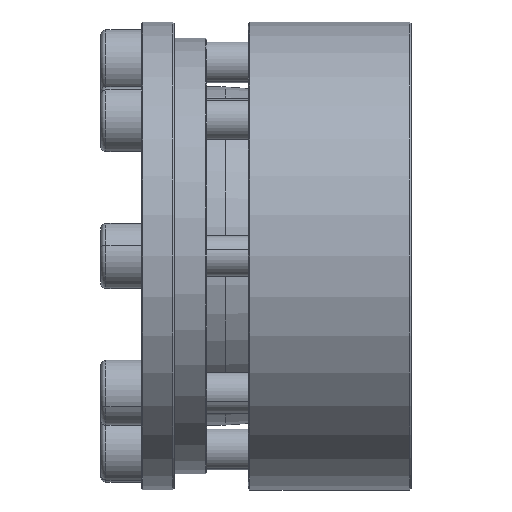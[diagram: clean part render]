
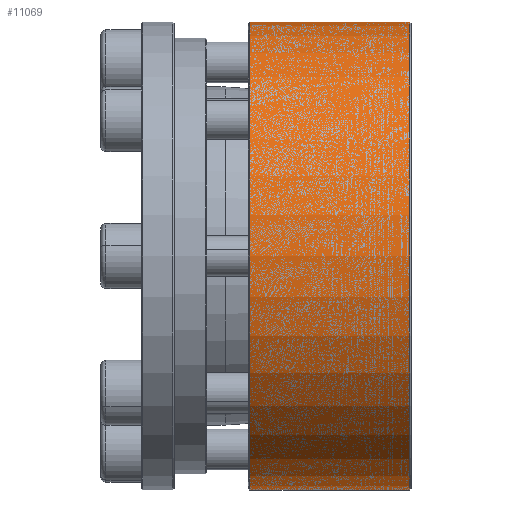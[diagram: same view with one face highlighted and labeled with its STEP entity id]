
A CAD part, front view. The second image highlights one B-rep face of the part: STEP entity #11069.
In plain terms, the highlighted cylindrical face has radius 57.44 mm (diameter 114.88 mm), a partial arc.
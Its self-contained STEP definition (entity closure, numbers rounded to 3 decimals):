
#1087 = DIRECTION ( 'NONE',  ( 0., 0., 1. ) ) ;
#1158 = LINE ( 'NONE', #6405, #8018 ) ;
#1239 = CARTESIAN_POINT ( 'NONE',  ( 39.6, 0., 0. ) ) ;
#1401 = CIRCLE ( 'NONE', #11146, 57.44 ) ;
#2230 = CARTESIAN_POINT ( 'NONE',  ( 0.4, 0., 57.44 ) ) ;
#2293 = ORIENTED_EDGE ( 'NONE', *, *, #12740, .T. ) ;
#2451 = CIRCLE ( 'NONE', #12843, 57.44 ) ;
#3182 = EDGE_LOOP ( 'NONE', ( #12031, #11921, #2293, #7082 ) ) ;
#3200 = DIRECTION ( 'NONE',  ( 0., 0., -1. ) ) ;
#3295 = VERTEX_POINT ( 'NONE', #11167 ) ;
#4205 = DIRECTION ( 'NONE',  ( -1., 0., 0. ) ) ;
#4402 = DIRECTION ( 'NONE',  ( 1., 0., 0. ) ) ;
#4657 = VECTOR ( 'NONE', #6623, 1000. ) ;
#5278 = DIRECTION ( 'NONE',  ( -1., 0., 0. ) ) ;
#5479 = VERTEX_POINT ( 'NONE', #11914 ) ;
#5728 = EDGE_CURVE ( 'NONE', #5479, #3295, #1401, .T. ) ;
#5744 = EDGE_CURVE ( 'NONE', #11492, #9396, #2451, .T. ) ;
#6405 = CARTESIAN_POINT ( 'NONE',  ( 0., 0., 57.44 ) ) ;
#6623 = DIRECTION ( 'NONE',  ( -1., 0., 0. ) ) ;
#7082 = ORIENTED_EDGE ( 'NONE', *, *, #5744, .T. ) ;
#8018 = VECTOR ( 'NONE', #4205, 1000. ) ;
#8403 = LINE ( 'NONE', #12638, #4657 ) ;
#9396 = VERTEX_POINT ( 'NONE', #12344 ) ;
#10393 = EDGE_CURVE ( 'NONE', #5479, #9396, #8403, .T. ) ;
#10965 = AXIS2_PLACEMENT_3D ( 'NONE', #11159, #12293, #1087 ) ;
#11069 = ADVANCED_FACE ( 'NONE', ( #13005 ), #12015, .T. ) ;
#11146 = AXIS2_PLACEMENT_3D ( 'NONE', #1239, #5278, #11444 ) ;
#11159 = CARTESIAN_POINT ( 'NONE',  ( 0., 0., 0. ) ) ;
#11167 = CARTESIAN_POINT ( 'NONE',  ( 39.6, 0., 57.44 ) ) ;
#11444 = DIRECTION ( 'NONE',  ( 0., 0., 1. ) ) ;
#11492 = VERTEX_POINT ( 'NONE', #2230 ) ;
#11914 = CARTESIAN_POINT ( 'NONE',  ( 39.6, 0., -57.44 ) ) ;
#11921 = ORIENTED_EDGE ( 'NONE', *, *, #5728, .T. ) ;
#12015 = CYLINDRICAL_SURFACE ( 'NONE', #10965, 57.44 ) ;
#12031 = ORIENTED_EDGE ( 'NONE', *, *, #10393, .F. ) ;
#12293 = DIRECTION ( 'NONE',  ( -1., 0., 0. ) ) ;
#12310 = CARTESIAN_POINT ( 'NONE',  ( 0.4, 0., 0. ) ) ;
#12344 = CARTESIAN_POINT ( 'NONE',  ( 0.4, 0., -57.44 ) ) ;
#12638 = CARTESIAN_POINT ( 'NONE',  ( 0., 0., -57.44 ) ) ;
#12740 = EDGE_CURVE ( 'NONE', #3295, #11492, #1158, .T. ) ;
#12843 = AXIS2_PLACEMENT_3D ( 'NONE', #12310, #4402, #3200 ) ;
#13005 = FACE_OUTER_BOUND ( 'NONE', #3182, .T. ) ;
